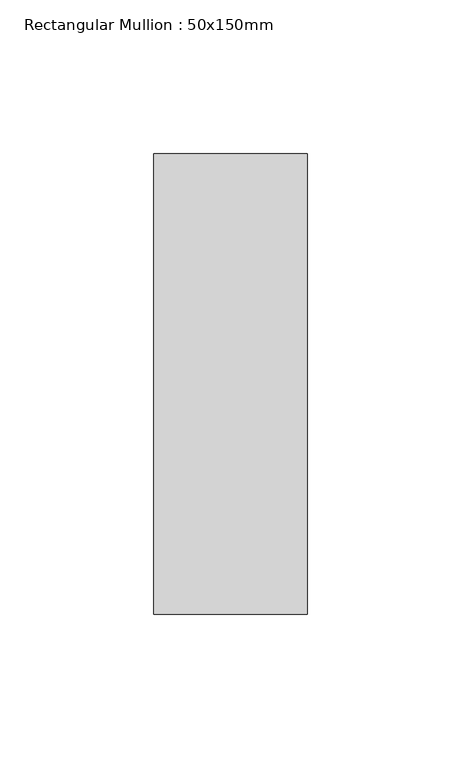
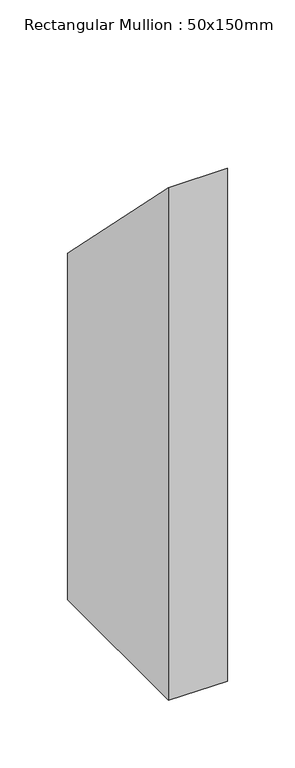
"""IFC4 building model written with IfcOpenShell, lengths in millimetres: member geometry, Rectangular Mullion : 50x150mm."""

from ifc_helpers import new_model, si_unit, frame, origin, place, context, project, spatial, polyline, outline, extrude, source, transform, mapped, element, save


def rectangular_mullion_50x150mm_a57fc602(model_context):
    return source(origin(), model_context, "Body", "SweptSolid", [
        extrude(outline(polyline([(0.0, 0.0), (150.0, -150.0), (150.0, -462.9999994), (0.0, -462.9999994), (0.0, 0.0)])), frame((-50.0, 0.0, 0.0), z_axis=(1.0, 0.0, 0.0), x_axis=(0.0, 1.0, 0.0)), (0.0, 0.0, 1.0), 50.0),
    ])


if __name__ == "__main__":
    model = new_model("IFC4")
    model_context = context("Model", 3, world=origin())
    ifc_project = project(units=[si_unit("LENGTHUNIT", "METRE", prefix="MILLI")], contexts=[model_context])
    site = spatial("IfcSite", under=ifc_project)
    building = spatial("IfcBuilding", under=site)
    placement = place(None, origin())
    rectangular_mullion_50x150mm_shape = rectangular_mullion_50x150mm_a57fc602(model_context)
    element("IfcMember", 1, ObjectType="Rectangular Mullion : 50x150mm", at=placement, inside=building, context=model_context, shape_type="MappedRepresentation", body=[
        mapped(rectangular_mullion_50x150mm_shape, transform((0.0, 0.0, 0.0), x_axis=(1.0, 0.0, 0.0), y_axis=(0.0, 1.0, 0.0), z_axis=(0.0, 0.0, 1.0))),
    ])
    save(model, "model.ifc")
